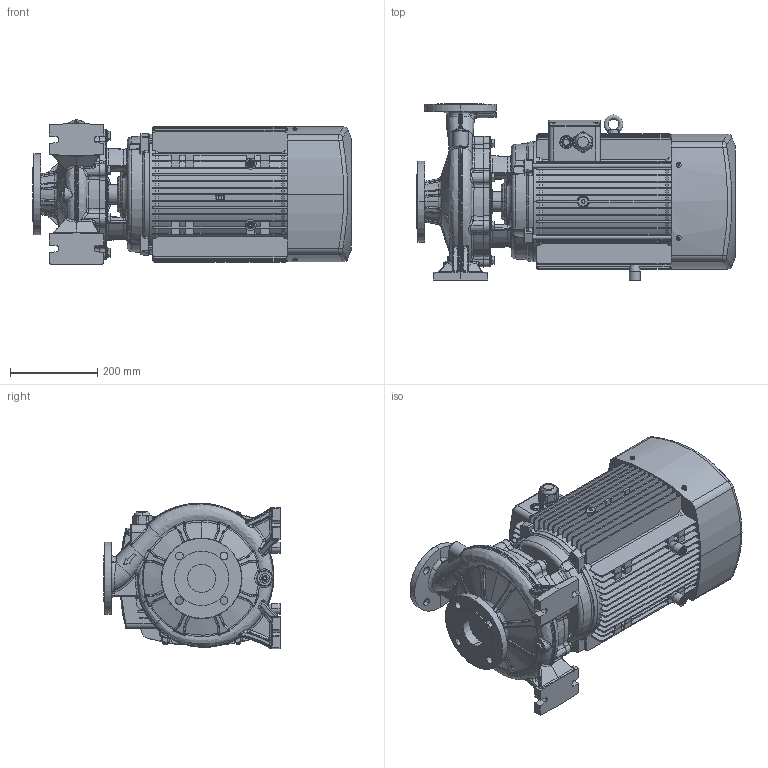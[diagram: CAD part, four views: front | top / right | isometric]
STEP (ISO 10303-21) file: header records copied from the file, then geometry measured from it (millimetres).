
FILE_DESCRIPTION (( 'STEP AP203' ), '1' );
FILE_NAME ('TST50-250-18.5 安装尺寸图.STEP', '2026-04-28T09:11:57', ( '微软用户' ), ( '微软中国' ), 'SwSTEP 2.0', 'SolidWorks 2020', '' );
FILE_SCHEMA (( 'CONFIG_CONTROL_DESIGN' ));
Products named in the file (1): TST50-250-18.5 假蚾喜渡芞
Bounding box: 730 x 405.58 x 334.59 mm (x, y, z)
Volume: 45237116.6 mm3; surface area: 2136270.3 mm2
Topology: 1 solids, 1 shells, 5371 faces, 13429 edges, 8431 vertices
Faces by surface type: plane 2807, bspline 1089, cylinder 789, cone 363, torus 264, sphere 59
Entity records: 206138 total; most frequent: CARTESIAN_POINT 85830, ORIENTED_EDGE 26790, DIRECTION 22333, EDGE_CURVE 13395, VERTEX_POINT 8431, AXIS2_PLACEMENT_3D 7588, LINE 7157, VECTOR 7157
